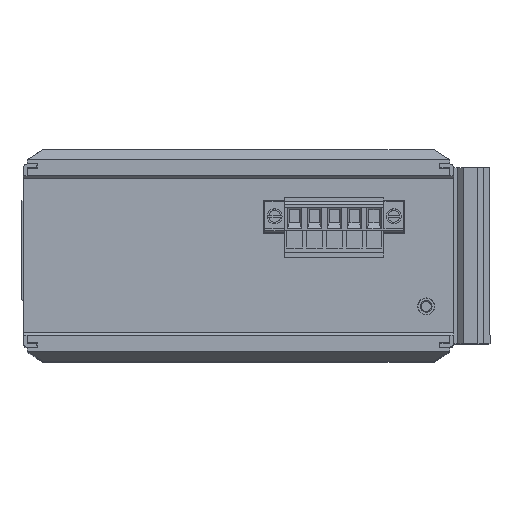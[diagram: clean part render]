
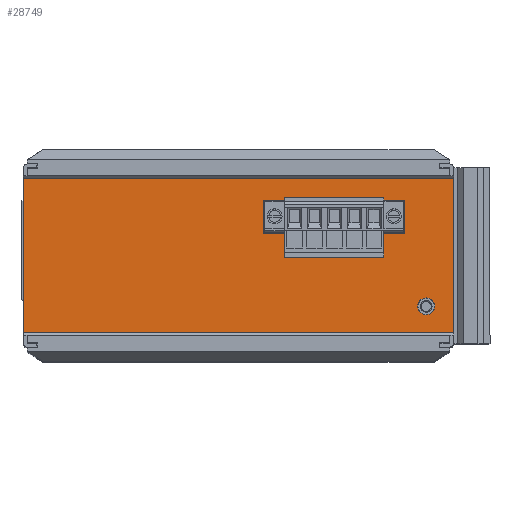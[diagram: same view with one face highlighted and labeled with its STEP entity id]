
A CAD part, top view. The second image highlights one B-rep face of the part: STEP entity #28749.
In plain terms, the highlighted planar face has unit normal (0, 0, 1).
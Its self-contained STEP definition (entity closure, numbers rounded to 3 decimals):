
#479 = EDGE_CURVE ( 'NONE', #44561, #15519, #37932, .T. ) ;
#665 = LINE ( 'NONE', #5188, #45846 ) ;
#836 = CARTESIAN_POINT ( 'NONE',  ( -71.893, 10.881, 69.2 ) ) ;
#1716 = DIRECTION ( 'NONE',  ( 1., 0., 0. ) ) ;
#2076 = CARTESIAN_POINT ( 'NONE',  ( 28.957, -21.819, 69.2 ) ) ;
#2456 = VERTEX_POINT ( 'NONE', #32764 ) ;
#4504 = LINE ( 'NONE', #48060, #48288 ) ;
#5188 = CARTESIAN_POINT ( 'NONE',  ( 25.607, 5.281, 69.2 ) ) ;
#5568 = CARTESIAN_POINT ( 'NONE',  ( 33.257, -21.819, 69.2 ) ) ;
#5681 = DIRECTION ( 'NONE',  ( 0., 1., 0. ) ) ;
#6956 = EDGE_CURVE ( 'NONE', #2456, #50093, #9356, .T. ) ;
#7479 = DIRECTION ( 'NONE',  ( 0., 0., 1. ) ) ;
#9356 = LINE ( 'NONE', #51911, #31245 ) ;
#9751 = FACE_BOUND ( 'NONE', #46721, .T. ) ;
#9918 = ORIENTED_EDGE ( 'NONE', *, *, #51612, .T. ) ;
#10200 = CARTESIAN_POINT ( 'NONE',  ( 25.607, 5.281, 69.2 ) ) ;
#11132 = FACE_BOUND ( 'NONE', #19680, .T. ) ;
#12473 = CARTESIAN_POINT ( 'NONE',  ( 38.107, 10.881, 69.2 ) ) ;
#12643 = ORIENTED_EDGE ( 'NONE', *, *, #13379, .F. ) ;
#13379 = EDGE_CURVE ( 'NONE', #53665, #2456, #665, .T. ) ;
#14393 = CARTESIAN_POINT ( 'NONE',  ( -10.393, -3.219, 69.2 ) ) ;
#14478 = ORIENTED_EDGE ( 'NONE', *, *, #479, .F. ) ;
#14526 = EDGE_CURVE ( 'NONE', #45722, #14938, #53858, .T. ) ;
#14762 = ORIENTED_EDGE ( 'NONE', *, *, #6956, .F. ) ;
#14938 = VERTEX_POINT ( 'NONE', #44670 ) ;
#15166 = ORIENTED_EDGE ( 'NONE', *, *, #16961, .F. ) ;
#15519 = VERTEX_POINT ( 'NONE', #5568 ) ;
#16070 = LINE ( 'NONE', #26682, #26311 ) ;
#16172 = CARTESIAN_POINT ( 'NONE',  ( -70.893, -28.519, 69.2 ) ) ;
#16761 = ORIENTED_EDGE ( 'NONE', *, *, #14526, .T. ) ;
#16961 = EDGE_CURVE ( 'NONE', #46592, #14938, #18764, .T. ) ;
#18368 = DIRECTION ( 'NONE',  ( -1., 0., 0. ) ) ;
#18580 = VECTOR ( 'NONE', #39547, 1000. ) ;
#18764 = LINE ( 'NONE', #16172, #40705 ) ;
#19680 = EDGE_LOOP ( 'NONE', ( #44585, #14478 ) ) ;
#19818 = DIRECTION ( 'NONE',  ( 0., -1., 0. ) ) ;
#21030 = AXIS2_PLACEMENT_3D ( 'NONE', #33715, #7479, #38120 ) ;
#21709 = VECTOR ( 'NONE', #40168, 1000. ) ;
#23069 = CARTESIAN_POINT ( 'NONE',  ( 37.107, -8.819, 69.2 ) ) ;
#25250 = EDGE_CURVE ( 'NONE', #15519, #44561, #50555, .T. ) ;
#26311 = VECTOR ( 'NONE', #31078, 1000. ) ;
#26682 = CARTESIAN_POINT ( 'NONE',  ( -70.893, 10.881, 69.2 ) ) ;
#27480 = PLANE ( 'NONE',  #34867 ) ;
#27522 = EDGE_CURVE ( 'NONE', #33806, #45722, #16070, .T. ) ;
#27907 = DIRECTION ( 'NONE',  ( 0., 0., 1. ) ) ;
#28749 = ADVANCED_FACE ( 'NONE', ( #44677, #11132, #9751 ), #27480, .F. ) ;
#29187 = EDGE_CURVE ( 'NONE', #31672, #53665, #31608, .T. ) ;
#30123 = DIRECTION ( 'NONE',  ( 0., -1., 0. ) ) ;
#31078 = DIRECTION ( 'NONE',  ( -1., 0., 0. ) ) ;
#31245 = VECTOR ( 'NONE', #30123, 1000. ) ;
#31608 = LINE ( 'NONE', #48297, #18580 ) ;
#31672 = VERTEX_POINT ( 'NONE', #48830 ) ;
#31894 = DIRECTION ( 'NONE',  ( 0., 0., -1. ) ) ;
#32010 = VECTOR ( 'NONE', #19818, 1000. ) ;
#32551 = ORIENTED_EDGE ( 'NONE', *, *, #50619, .F. ) ;
#32764 = CARTESIAN_POINT ( 'NONE',  ( -10.393, 5.281, 69.2 ) ) ;
#33051 = CARTESIAN_POINT ( 'NONE',  ( -71.893, -8.819, 69.2 ) ) ;
#33715 = CARTESIAN_POINT ( 'NONE',  ( 31.107, -21.819, 69.2 ) ) ;
#33783 = DIRECTION ( 'NONE',  ( -1., 0., 0. ) ) ;
#33806 = VERTEX_POINT ( 'NONE', #12473 ) ;
#34444 = CARTESIAN_POINT ( 'NONE',  ( 38.107, -28.519, 69.2 ) ) ;
#34867 = AXIS2_PLACEMENT_3D ( 'NONE', #23069, #31894, #5681 ) ;
#34911 = DIRECTION ( 'NONE',  ( 0., 1., 0. ) ) ;
#35773 = CARTESIAN_POINT ( 'NONE',  ( 25.607, -3.219, 69.2 ) ) ;
#37932 = CIRCLE ( 'NONE', #46056, 2.15 ) ;
#38120 = DIRECTION ( 'NONE',  ( 1., 0., 0. ) ) ;
#39547 = DIRECTION ( 'NONE',  ( 0., 1., 0. ) ) ;
#40168 = DIRECTION ( 'NONE',  ( 1., 0., 0. ) ) ;
#40705 = VECTOR ( 'NONE', #33783, 1000. ) ;
#43513 = ORIENTED_EDGE ( 'NONE', *, *, #29187, .F. ) ;
#44561 = VERTEX_POINT ( 'NONE', #2076 ) ;
#44585 = ORIENTED_EDGE ( 'NONE', *, *, #25250, .F. ) ;
#44670 = CARTESIAN_POINT ( 'NONE',  ( -71.893, -28.519, 69.2 ) ) ;
#44677 = FACE_OUTER_BOUND ( 'NONE', #54423, .T. ) ;
#45722 = VERTEX_POINT ( 'NONE', #836 ) ;
#45846 = VECTOR ( 'NONE', #18368, 1000. ) ;
#46056 = AXIS2_PLACEMENT_3D ( 'NONE', #54080, #27907, #1716 ) ;
#46592 = VERTEX_POINT ( 'NONE', #34444 ) ;
#46721 = EDGE_LOOP ( 'NONE', ( #12643, #43513, #32551, #14762 ) ) ;
#48060 = CARTESIAN_POINT ( 'NONE',  ( 38.107, -8.819, 69.2 ) ) ;
#48288 = VECTOR ( 'NONE', #34911, 1000. ) ;
#48297 = CARTESIAN_POINT ( 'NONE',  ( 25.607, -3.219, 69.2 ) ) ;
#48830 = CARTESIAN_POINT ( 'NONE',  ( 25.607, -3.219, 69.2 ) ) ;
#50093 = VERTEX_POINT ( 'NONE', #14393 ) ;
#50555 = CIRCLE ( 'NONE', #21030, 2.15 ) ;
#50619 = EDGE_CURVE ( 'NONE', #50093, #31672, #56610, .T. ) ;
#51612 = EDGE_CURVE ( 'NONE', #46592, #33806, #4504, .T. ) ;
#51911 = CARTESIAN_POINT ( 'NONE',  ( -10.393, -3.219, 69.2 ) ) ;
#53665 = VERTEX_POINT ( 'NONE', #10200 ) ;
#53858 = LINE ( 'NONE', #33051, #32010 ) ;
#54080 = CARTESIAN_POINT ( 'NONE',  ( 31.107, -21.819, 69.2 ) ) ;
#54423 = EDGE_LOOP ( 'NONE', ( #9918, #56033, #16761, #15166 ) ) ;
#56033 = ORIENTED_EDGE ( 'NONE', *, *, #27522, .T. ) ;
#56610 = LINE ( 'NONE', #35773, #21709 ) ;
